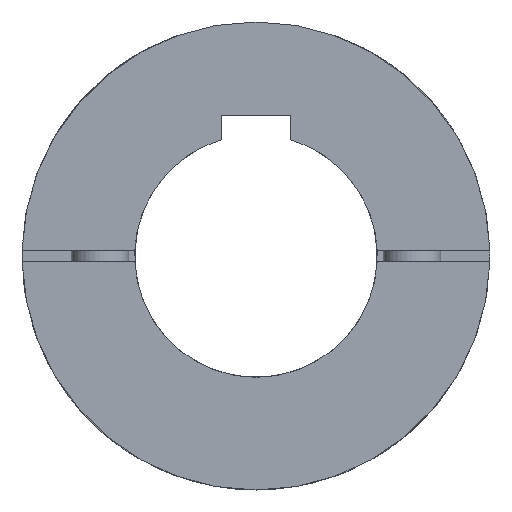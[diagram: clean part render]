
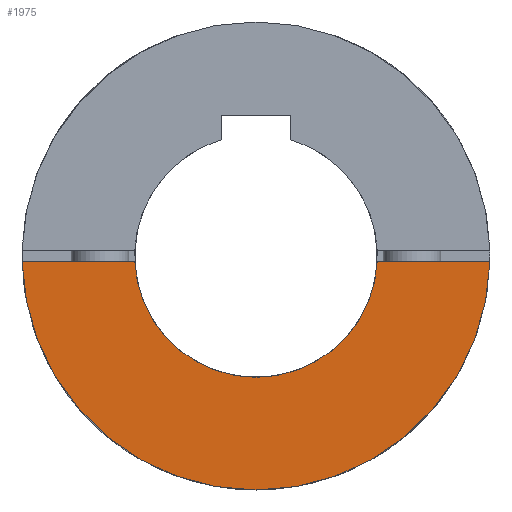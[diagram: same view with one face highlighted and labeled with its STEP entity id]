
A CAD part, left-side view. The second image highlights one B-rep face of the part: STEP entity #1975.
In plain terms, the highlighted planar face has unit normal (-1, 0, 0).
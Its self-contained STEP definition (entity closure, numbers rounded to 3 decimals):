
#36=PLANE('',#2238);
#201=LINE('',#3615,#344);
#211=LINE('',#3639,#354);
#344=VECTOR('',#2697,31.04);
#354=VECTOR('',#2725,31.04);
#517=FACE_OUTER_BOUND('',#651,.T.);
#651=EDGE_LOOP('',(#1654,#1655,#1656,#1657));
#855=CIRCLE('',#2213,21.);
#859=CIRCLE('',#2239,40.5);
#989=VERTEX_POINT('',#3567);
#990=VERTEX_POINT('',#3568);
#1002=VERTEX_POINT('',#3613);
#1007=VERTEX_POINT('',#3638);
#1221=EDGE_CURVE('',#989,#990,#855,.T.);
#1246=EDGE_CURVE('',#1002,#990,#201,.T.);
#1258=EDGE_CURVE('',#1007,#989,#211,.T.);
#1263=EDGE_CURVE('',#1002,#1007,#859,.T.);
#1654=ORIENTED_EDGE('',*,*,#1221,.T.);
#1655=ORIENTED_EDGE('',*,*,#1246,.F.);
#1656=ORIENTED_EDGE('',*,*,#1263,.T.);
#1657=ORIENTED_EDGE('',*,*,#1258,.T.);
#1975=ADVANCED_FACE('',(#517),#36,.T.);
#2213=AXIS2_PLACEMENT_3D('',#3569,#2652,#2653);
#2238=AXIS2_PLACEMENT_3D('',#3650,#2740,#2741);
#2239=AXIS2_PLACEMENT_3D('',#3651,#2742,#2743);
#2652=DIRECTION('center_axis',(1.,0.,0.));
#2653=DIRECTION('ref_axis',(0.,0.,1.));
#2697=DIRECTION('',(0.,-1.,0.));
#2725=DIRECTION('',(0.,1.,0.));
#2740=DIRECTION('center_axis',(-1.,0.,0.));
#2741=DIRECTION('ref_axis',(0.,-1.,0.));
#2742=DIRECTION('center_axis',(-1.,0.,0.));
#2743=DIRECTION('ref_axis',(0.,1.,0.));
#3567=CARTESIAN_POINT('',(0.,-20.976,-1.));
#3568=CARTESIAN_POINT('',(0.,20.976,-1.));
#3569=CARTESIAN_POINT('Origin',(0.,0.,0.));
#3613=CARTESIAN_POINT('',(0.,40.488,-1.));
#3615=CARTESIAN_POINT('',(0.,40.488,-1.));
#3638=CARTESIAN_POINT('',(0.,-40.488,-1.));
#3639=CARTESIAN_POINT('',(0.,-40.488,-1.));
#3650=CARTESIAN_POINT('Origin',(0.,0.,-9.5));
#3651=CARTESIAN_POINT('Origin',(0.,0.,0.));
